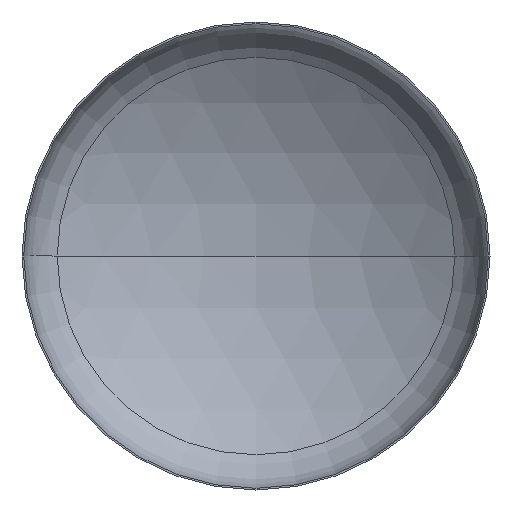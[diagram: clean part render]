
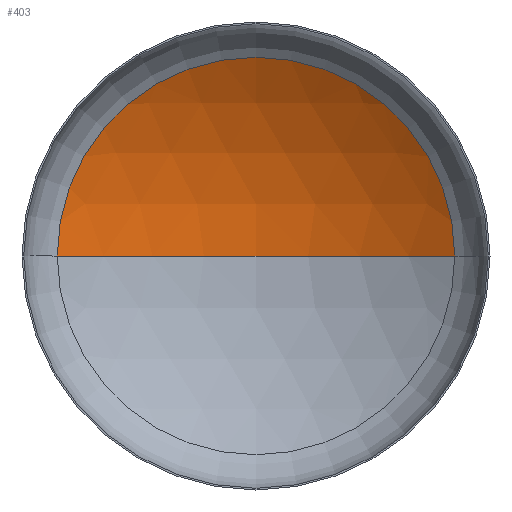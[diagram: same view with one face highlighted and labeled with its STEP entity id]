
A CAD part, front view. The second image highlights one B-rep face of the part: STEP entity #403.
In plain terms, the highlighted spherical face has radius 1520 mm.
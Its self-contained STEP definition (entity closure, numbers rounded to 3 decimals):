
#1 = VERTEX_POINT ( 'NONE', #267 ) ;
#2 = AXIS2_PLACEMENT_3D ( 'NONE', #169, #168, #157 ) ;
#7 = AXIS2_PLACEMENT_3D ( 'NONE', #385, #212, #10 ) ;
#9 = EDGE_LOOP ( 'NONE', ( #23, #88, #16 ) ) ;
#10 = DIRECTION ( 'NONE',  ( 1., 0., 0. ) ) ;
#16 = ORIENTED_EDGE ( 'NONE', *, *, #344, .T. ) ;
#23 = ORIENTED_EDGE ( 'NONE', *, *, #383, .F. ) ;
#25 = AXIS2_PLACEMENT_3D ( 'NONE', #211, #302, #190 ) ;
#43 = VERTEX_POINT ( 'NONE', #299 ) ;
#80 = VERTEX_POINT ( 'NONE', #373 ) ;
#88 = ORIENTED_EDGE ( 'NONE', *, *, #389, .T. ) ;
#135 = CIRCLE ( 'NONE', #25, 806.959 ) ;
#157 = DIRECTION ( 'NONE',  ( -1., 0., 0. ) ) ;
#163 = CIRCLE ( 'NONE', #2, 1520. ) ;
#168 = DIRECTION ( 'NONE',  ( 0., 0., -1. ) ) ;
#169 = CARTESIAN_POINT ( 'NONE',  ( 0., -1017.349, 0. ) ) ;
#189 = DIRECTION ( 'NONE',  ( 0., 0., -1. ) ) ;
#190 = DIRECTION ( 'NONE',  ( 1., 0., 0. ) ) ;
#211 = CARTESIAN_POINT ( 'NONE',  ( 0., 270.757, 0. ) ) ;
#212 = DIRECTION ( 'NONE',  ( 0., 0., 1. ) ) ;
#244 = FACE_OUTER_BOUND ( 'NONE', #9, .T. ) ;
#250 = CARTESIAN_POINT ( 'NONE',  ( 0., -1017.349, 0. ) ) ;
#254 = DIRECTION ( 'NONE',  ( -1., 0., 0. ) ) ;
#267 = CARTESIAN_POINT ( 'NONE',  ( 806.959, 270.757, 0. ) ) ;
#299 = CARTESIAN_POINT ( 'NONE',  ( 0., 502.651, 0. ) ) ;
#302 = DIRECTION ( 'NONE',  ( 0., -1., 0. ) ) ;
#344 = EDGE_CURVE ( 'NONE', #1, #80, #135, .T. ) ;
#351 = SPHERICAL_SURFACE ( 'NONE', #386, 1520. ) ;
#361 = CIRCLE ( 'NONE', #7, 1520. ) ;
#373 = CARTESIAN_POINT ( 'NONE',  ( -806.959, 270.757, 0. ) ) ;
#383 = EDGE_CURVE ( 'NONE', #43, #80, #361, .T. ) ;
#385 = CARTESIAN_POINT ( 'NONE',  ( 0., -1017.349, 0. ) ) ;
#386 = AXIS2_PLACEMENT_3D ( 'NONE', #250, #189, #254 ) ;
#389 = EDGE_CURVE ( 'NONE', #43, #1, #163, .T. ) ;
#403 = ADVANCED_FACE ( 'NONE', ( #244 ), #351, .F. ) ;
